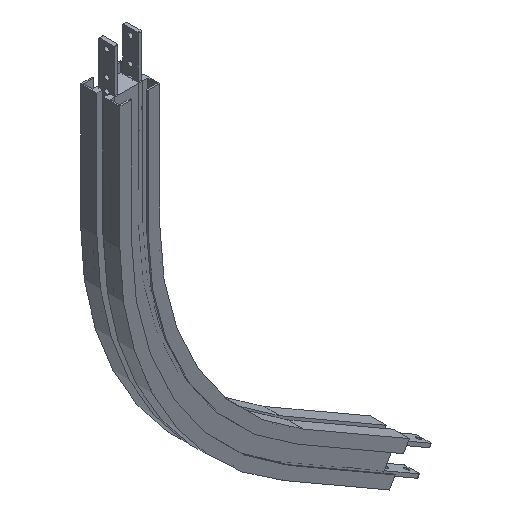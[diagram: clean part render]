
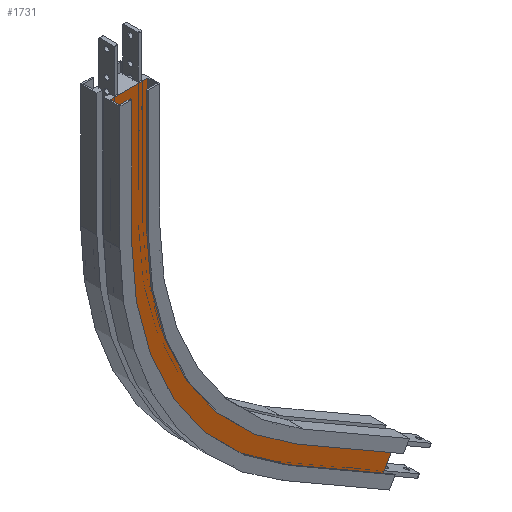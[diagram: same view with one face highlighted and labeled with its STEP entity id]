
A CAD part, isometric view. The second image highlights one B-rep face of the part: STEP entity #1731.
In plain terms, the highlighted planar face has unit normal (0, -1, 0).
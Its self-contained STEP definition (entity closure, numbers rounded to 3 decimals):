
#1328 = VERTEX_POINT ( 'NONE', #4308 ) ;
#1330 = EDGE_CURVE ( 'NONE', #1331, #1328, #4307, .T. ) ;
#1331 = VERTEX_POINT ( 'NONE', #4303 ) ;
#1342 = VERTEX_POINT ( 'NONE', #4288 ) ;
#1344 = EDGE_CURVE ( 'NONE', #1328, #1342, #4261, .T. ) ;
#1396 = VERTEX_POINT ( 'NONE', #4310 ) ;
#1398 = EDGE_CURVE ( 'NONE', #1342, #1396, #4245, .T. ) ;
#1406 = VERTEX_POINT ( 'NONE', #4230 ) ;
#1408 = EDGE_CURVE ( 'NONE', #1396, #1406, #4098, .T. ) ;
#1415 = VERTEX_POINT ( 'NONE', #4083 ) ;
#1728 = EDGE_CURVE ( 'NONE', #1844, #1331, #4380, .T. ) ;
#1731 = ADVANCED_FACE ( 'NONE', ( #4376 ), #4327, .T. ) ;
#1732 = EDGE_LOOP ( 'NONE', ( #1733, #1734, #1735, #1736, #1737, #1738, #1739, #1740 ) ) ;
#1733 = ORIENTED_EDGE ( 'NONE', *, *, #1848, .T. ) ;
#1734 = ORIENTED_EDGE ( 'NONE', *, *, #1728, .T. ) ;
#1735 = ORIENTED_EDGE ( 'NONE', *, *, #1330, .T. ) ;
#1736 = ORIENTED_EDGE ( 'NONE', *, *, #1344, .T. ) ;
#1737 = ORIENTED_EDGE ( 'NONE', *, *, #1398, .T. ) ;
#1738 = ORIENTED_EDGE ( 'NONE', *, *, #1408, .T. ) ;
#1739 = ORIENTED_EDGE ( 'NONE', *, *, #1829, .T. ) ;
#1740 = ORIENTED_EDGE ( 'NONE', *, *, #1742, .T. ) ;
#1742 = EDGE_CURVE ( 'NONE', #1415, #1795, #4326, .T. ) ;
#1795 = VERTEX_POINT ( 'NONE', #4343 ) ;
#1829 = EDGE_CURVE ( 'NONE', #1406, #1415, #4342, .T. ) ;
#1844 = VERTEX_POINT ( 'NONE', #4494 ) ;
#1848 = EDGE_CURVE ( 'NONE', #1795, #1844, #4465, .T. ) ;
#4083 = CARTESIAN_POINT ( 'NONE',  ( 494.555, 11.6, -971.726 ) ) ;
#4094 = DIRECTION ( 'NONE',  ( 0., 0., 1. ) ) ;
#4095 = DIRECTION ( 'NONE',  ( 0., -1., 0. ) ) ;
#4096 = CARTESIAN_POINT ( 'NONE',  ( 586.6, 11.6, -412.3 ) ) ;
#4097 = AXIS2_PLACEMENT_3D ( 'NONE', #4096, #4095, #4094 ) ;
#4098 = CIRCLE ( 'NONE', #4097, 530.5 ) ;
#4230 = CARTESIAN_POINT ( 'NONE',  ( 321.35, 11.6, -871.726 ) ) ;
#4242 = DIRECTION ( 'NONE',  ( 0., 0., -1. ) ) ;
#4243 = VECTOR ( 'NONE', #4242, 1000. ) ;
#4244 = CARTESIAN_POINT ( 'NONE',  ( 56.1, 11.6, -212.3 ) ) ;
#4245 = LINE ( 'NONE', #4244, #4243 ) ;
#4258 = DIRECTION ( 'NONE',  ( -1., 0., 0. ) ) ;
#4259 = VECTOR ( 'NONE', #4258, 1000. ) ;
#4260 = CARTESIAN_POINT ( 'NONE',  ( 86.6, 11.6, -212.3 ) ) ;
#4261 = LINE ( 'NONE', #4260, #4259 ) ;
#4288 = CARTESIAN_POINT ( 'NONE',  ( 56.1, 11.6, -212.3 ) ) ;
#4303 = CARTESIAN_POINT ( 'NONE',  ( 117.1, 11.6, -412.3 ) ) ;
#4304 = DIRECTION ( 'NONE',  ( 0., 0., 1. ) ) ;
#4305 = VECTOR ( 'NONE', #4304, 1000. ) ;
#4306 = CARTESIAN_POINT ( 'NONE',  ( 117.1, 11.6, -212.3 ) ) ;
#4307 = LINE ( 'NONE', #4306, #4305 ) ;
#4308 = CARTESIAN_POINT ( 'NONE',  ( 117.1, 11.6, -212.3 ) ) ;
#4310 = CARTESIAN_POINT ( 'NONE',  ( 56.1, 11.6, -412.3 ) ) ;
#4319 = DIRECTION ( 'NONE',  ( 0.5, 0., 0.866 ) ) ;
#4320 = VECTOR ( 'NONE', #4319, 1000. ) ;
#4321 = CARTESIAN_POINT ( 'NONE',  ( 494.555, 11.6, -971.726 ) ) ;
#4322 = DIRECTION ( 'NONE',  ( 1., 0., 0. ) ) ;
#4323 = DIRECTION ( 'NONE',  ( 0., -1., 0. ) ) ;
#4324 = CARTESIAN_POINT ( 'NONE',  ( 86.6, 11.6, -212.3 ) ) ;
#4325 = AXIS2_PLACEMENT_3D ( 'NONE', #4324, #4323, #4322 ) ;
#4326 = LINE ( 'NONE', #4321, #4320 ) ;
#4327 = PLANE ( 'NONE',  #4325 ) ;
#4328 = DIRECTION ( 'NONE',  ( 0., 0., 1. ) ) ;
#4329 = DIRECTION ( 'NONE',  ( 0., 1., 0. ) ) ;
#4339 = DIRECTION ( 'NONE',  ( 0.866, 0., -0.5 ) ) ;
#4340 = VECTOR ( 'NONE', #4339, 1000. ) ;
#4341 = CARTESIAN_POINT ( 'NONE',  ( 321.35, 11.6, -871.726 ) ) ;
#4342 = LINE ( 'NONE', #4341, #4340 ) ;
#4343 = CARTESIAN_POINT ( 'NONE',  ( 525.055, 11.6, -918.899 ) ) ;
#4374 = CARTESIAN_POINT ( 'NONE',  ( 586.6, 11.6, -412.3 ) ) ;
#4375 = AXIS2_PLACEMENT_3D ( 'NONE', #4374, #4329, #4328 ) ;
#4376 = FACE_OUTER_BOUND ( 'NONE', #1732, .T. ) ;
#4380 = CIRCLE ( 'NONE', #4375, 469.5 ) ;
#4462 = DIRECTION ( 'NONE',  ( -0.866, 0., 0.5 ) ) ;
#4463 = VECTOR ( 'NONE', #4462, 1000. ) ;
#4464 = CARTESIAN_POINT ( 'NONE',  ( 525.055, 11.6, -918.899 ) ) ;
#4465 = LINE ( 'NONE', #4464, #4463 ) ;
#4494 = CARTESIAN_POINT ( 'NONE',  ( 351.85, 11.6, -818.899 ) ) ;
